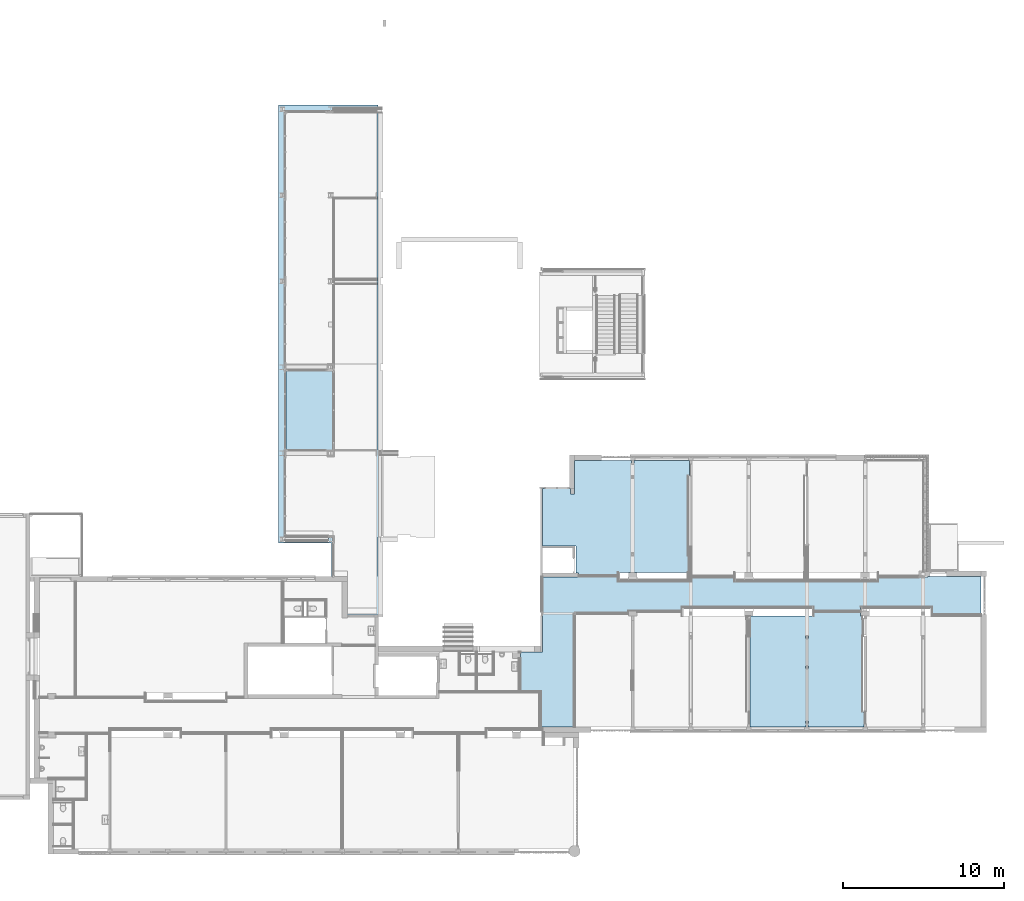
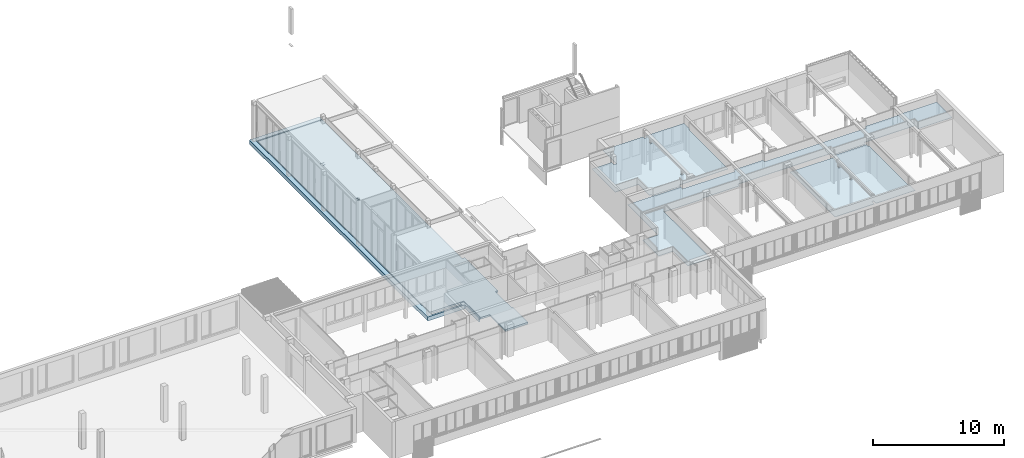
# One storey, part 25 of 99: 5 slabs.
"""IFC2X3 building model written with IfcOpenShell, lengths in millimetres."""

from ifc_helpers import new_model, entity, si_unit, converted_unit, derived_unit, money_unit, direction, frame, origin_with_axes, place, context, subcontext, project, spatial, faceted_brep, material, type_object, element, save


model = new_model("IFC2X3")

# Units and contexts
model_context = context("Model", 3, precision=0.01, world=origin_with_axes(), true_north=direction((0.0, 1.0)))
body_context = subcontext(model_context, "Body", "Model", "MODEL_VIEW")
ifc_project = project(units=[si_unit("LENGTHUNIT", "METRE", prefix="MILLI"), si_unit("AREAUNIT", "SQUARE_METRE"), si_unit("VOLUMEUNIT", "CUBIC_METRE"), converted_unit("PLANEANGLEUNIT", "DEGREE", entity("IfcPlaneAngleMeasure", 0.0174532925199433), si_unit("PLANEANGLEUNIT", "RADIAN"), dimensions=[0, 0, 0, 0, 0, 0, 0]), money_unit("EUR"), converted_unit("TIMEUNIT", "Year", entity("IfcTimeMeasure", 31557600.0), si_unit("TIMEUNIT", "SECOND"), dimensions=[0, 0, 1, 0, 0, 0, 0]), si_unit("MASSUNIT", "GRAM", prefix="KILO"), si_unit("THERMODYNAMICTEMPERATUREUNIT", "DEGREE_CELSIUS"), si_unit("LUMINOUSINTENSITYUNIT", "LUMEN"), si_unit("ENERGYUNIT", "JOULE", prefix="MEGA"), derived_unit("THERMALCONDUCTANCEUNIT", [(si_unit("POWERUNIT", "WATT"), 1), (si_unit("LENGTHUNIT", "METRE"), -1), (si_unit("THERMODYNAMICTEMPERATUREUNIT", "KELVIN"), -1)]), derived_unit("SPECIFICHEATCAPACITYUNIT", [(si_unit("ENERGYUNIT", "JOULE"), 1), (si_unit("MASSUNIT", "GRAM", prefix="KILO"), -1), (si_unit("THERMODYNAMICTEMPERATUREUNIT", "KELVIN"), -1)]), derived_unit("MASSDENSITYUNIT", [(si_unit("MASSUNIT", "GRAM", prefix="KILO"), 1), (si_unit("VOLUMEUNIT", "CUBIC_METRE"), -1)])], contexts=[model_context])

# Site, building, storey
site_placement = place(None, origin_with_axes())
site = spatial("IfcSite", under=ifc_project, at=site_placement, Name="Site", CompositionType="ELEMENT")
building_placement = place(site_placement, origin_with_axes())
building = spatial("IfcBuilding", under=site, at=building_placement, Name="Naam gebouw", CompositionType="ELEMENT")
storey_placement = place(building_placement, frame((0.0, 0.0, 7650.0), z_axis=(0.0, 0.0, 1.0), x_axis=(1.0, 0.0, 0.0)))
storey = spatial("IfcBuildingStorey", under=building, at=storey_placement, Name="2e verdieping N", CompositionType="ELEMENT", Elevation=7650.0)

# Slabs
ifc_material_1 = material(Name="ALG - BINNENAFWERKING")
slab_type_1 = type_object("IfcSlabType", Name="ALG - BINNENAFWERKING 40", PredefinedType="NOTDEFINED")
slab_1_placement = place(storey_placement, frame((30325.0, 10990.91242510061, 2450.000000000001), z_axis=(0.0, 0.0, 1.0), x_axis=(1.0, 0.0, 0.0)))
element("IfcSlab", 1, at=slab_1_placement, inside=storey, type_object=slab_type_1, material=ifc_material_1, Name="_Vloer-x", PredefinedType="NOTDEFINED", context=body_context, shape_type="Brep", body=[
    faceted_brep([(2034.999999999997, 7100.0, 39.99999999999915), (2139.999999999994, 7100.0, 39.99999999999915), (2139.999999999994, 7085.000000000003, 39.99999999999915), (5392.499999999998, 7085.000000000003, 39.99999999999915), (5392.499999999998, 7205.0, 39.99999999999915), (8704.99999999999, 7205.0, 39.99999999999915), (8704.99999999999, 7455.0, 39.99999999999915), (16895.00000000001, 7455.0, 39.99999999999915), (16895.00000000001, 7205.0, 39.99999999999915), (19804.99999999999, 7205.0, 39.99999999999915), (19804.99999999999, 7454.999999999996, 39.99999999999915), (24244.99999999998, 7454.999999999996, 39.99999999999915), (24244.99999999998, 6979.999999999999, 39.99999999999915), (27275.0, 6979.999999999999, 39.99999999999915), (27275.0, 9334.999999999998, 39.99999999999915), (23959.50000000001, 9334.999999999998, 39.99999999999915), (23959.50000000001, 9265.000000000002, 39.99999999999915), (20890.00000000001, 9265.000000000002, 39.99999999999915), (20890.00000000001, 9015.000000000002, 39.99999999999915), (11960.0, 9015.000000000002, 39.99999999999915), (11960.0, 9265.000000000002, 39.99999999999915), (9350.000000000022, 9265.000000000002, 39.99999999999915), (9350.000000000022, 9015.000000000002, 39.99999999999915), (4760.000000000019, 9015.000000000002, 39.99999999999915), (4760.000000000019, 9310.0, 39.99999999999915), (100.0000000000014, 9310.0, 39.99999999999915), (100.0000000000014, 4659.999999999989, 39.99999999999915), (-1274.999999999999, 4659.999999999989, 39.99999999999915), (-1274.999999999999, 2229.945694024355, 39.99999999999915), (0.0, 2229.945694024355, 39.99999999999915), (0.0, 0.0, 39.99999999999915), (2024.999999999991, 0.0, 39.99999999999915), (2024.999999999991, 6970.000000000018, 39.99999999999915), (2009.999999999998, 6970.000000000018, 39.99999999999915), (2009.999999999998, 7100.0, 39.99999999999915), (2139.999999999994, 7100.0, 0.0), (2034.999999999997, 7100.0, 0.0), (2139.999999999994, 7085.000000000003, 0.0), (5392.499999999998, 7085.000000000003, 0.0), (5392.499999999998, 7205.0, 0.0), (8704.99999999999, 7205.0, 0.0), (8704.99999999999, 7455.0, 0.0), (16895.00000000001, 7455.0, 0.0), (16895.00000000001, 7205.0, 0.0), (19804.99999999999, 7205.0, 0.0), (19804.99999999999, 7454.999999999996, 0.0), (24244.99999999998, 7454.999999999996, 0.0), (24244.99999999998, 6979.999999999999, 0.0), (27275.0, 6979.999999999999, 0.0), (27275.0, 9334.999999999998, 0.0), (23959.50000000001, 9334.999999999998, 0.0), (23959.50000000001, 9265.000000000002, 0.0), (20890.00000000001, 9265.000000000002, 0.0), (20890.00000000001, 9015.000000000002, 0.0), (11960.0, 9015.000000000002, 0.0), (11960.0, 9265.000000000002, 0.0), (9350.000000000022, 9265.000000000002, 0.0), (9350.000000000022, 9015.000000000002, 0.0), (4760.000000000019, 9015.000000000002, 0.0), (4760.000000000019, 9310.0, 0.0), (100.0000000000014, 9310.0, 0.0), (100.0000000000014, 4659.999999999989, 0.0), (-1274.999999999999, 4659.999999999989, 0.0), (-1274.999999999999, 2229.945694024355, 0.0), (0.0, 2229.945694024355, 0.0), (0.0, 0.0, 0.0), (2024.999999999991, 0.0, 0.0), (2024.999999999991, 6970.000000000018, 0.0), (2009.999999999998, 6970.000000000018, 0.0), (2009.999999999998, 7100.0, 0.0)], [[[0, 1, 2, 3, 4, 5, 6, 7, 8, 9, 10, 11, 12, 13, 14, 15, 16, 17, 18, 19, 20, 21, 22, 23, 24, 25, 26, 27, 28, 29, 30, 31, 32, 33, 34]], [[35, 1, 0, 36]], [[37, 2, 1, 35]], [[3, 2, 37, 38]], [[4, 3, 38, 39]], [[5, 4, 39, 40]], [[6, 5, 40, 41]], [[7, 6, 41, 42]], [[8, 7, 42, 43]], [[9, 8, 43, 44]], [[10, 9, 44, 45]], [[11, 10, 45, 46]], [[12, 11, 46, 47]], [[13, 12, 47, 48]], [[14, 13, 48, 49]], [[15, 14, 49, 50]], [[16, 15, 50, 51]], [[17, 16, 51, 52]], [[18, 17, 52, 53]], [[19, 18, 53, 54]], [[20, 19, 54, 55]], [[21, 20, 55, 56]], [[22, 21, 56, 57]], [[23, 22, 57, 58]], [[24, 23, 58, 59]], [[25, 24, 59, 60]], [[26, 25, 60, 61]], [[27, 26, 61, 62]], [[28, 27, 62, 63]], [[29, 28, 63, 64]], [[30, 29, 64, 65]], [[31, 30, 65, 66]], [[66, 67, 32, 31]], [[68, 33, 32, 67]], [[69, 34, 33, 68]], [[69, 36, 0, 34]], [[37, 35, 36, 69, 68, 67, 66, 65, 64, 63, 62, 61, 60, 59, 58, 57, 56, 55, 54, 53, 52, 51, 50, 49, 48, 47, 46, 45, 44, 43, 42, 41, 40, 39, 38]]]),
])
slab_2_placement = place(storey_placement, frame((30425.0, 22206.91242510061, 2450.000000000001), z_axis=(0.0, 0.0, 1.0), x_axis=(1.0, 0.0, 0.0)))
element("IfcSlab", 2, at=slab_2_placement, inside=storey, type_object=slab_type_1, material=ifc_material_1, Name="_Vloer-x", PredefinedType="NOTDEFINED", context=body_context, shape_type="Brep", body=[
    faceted_brep([(5514.999999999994, -560.9999999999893, 39.99999999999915), (5634.999999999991, -561.000000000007, 39.99999999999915), (5634.999999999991, -440.999999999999, 39.99999999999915), (5514.999999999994, -440.999999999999, 39.99999999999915), (5514.999999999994, -560.9999999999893, 0.0), (5634.999999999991, -561.000000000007, 0.0), (5634.999999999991, -440.999999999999, 0.0), (5514.999999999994, -440.999999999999, 0.0)], [[[0, 1, 2, 3]], [[4, 5, 1, 0]], [[5, 6, 2, 1]], [[3, 2, 6, 7]], [[7, 4, 0, 3]], [[7, 6, 5, 4]]]),
    faceted_brep([(5514.999999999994, 4214.000000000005, 39.99999999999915), (5634.999999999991, 4213.999999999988, 39.99999999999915), (5634.999999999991, 4333.999999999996, 39.99999999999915), (5514.999999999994, 4333.999999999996, 39.99999999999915), (5514.999999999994, 4214.000000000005, 0.0), (5634.999999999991, 4213.999999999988, 0.0), (5634.999999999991, 4333.999999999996, 0.0), (5514.999999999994, 4333.999999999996, 0.0)], [[[0, 1, 2, 3]], [[4, 5, 1, 0]], [[5, 6, 2, 1]], [[3, 2, 6, 7]], [[7, 4, 0, 3]], [[7, 6, 5, 4]]]),
    faceted_brep([(5660.000000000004, 4358.999999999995, 0.0), (5659.999999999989, 4333.999999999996, 0.0), (5659.999999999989, 4333.999999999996, 39.99999999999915), (5660.000000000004, 4358.999999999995, 39.99999999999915), (2224.999953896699, -1806.000000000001, 0.0), (2224.999953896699, -1656.000000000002, 0.0), (2156.117064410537, -1656.000000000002, 0.0), (2056.117064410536, -1656.000000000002, 0.0), (2056.117064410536, 0.0, 0.0), (0.0, 0.0, 0.0), (0.0, 3553.984600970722, 0.0), (1724.99999999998, 3553.984600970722, 0.0), (1724.999999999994, 3214.000000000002, 0.0), (1974.999999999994, 3214.000000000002, 0.0), (1974.999999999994, 5299.000000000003, 0.0), (5500.000000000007, 5299.000000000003, 0.0), (5500.000000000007, 5044.000000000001, 0.0), (5650.000000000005, 5044.000000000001, 0.0), (5650.000000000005, 5299.000000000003, 0.0), (9100.00000000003, 5299.000000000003, 0.0), (9100.00000000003, 4358.999999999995, 0.0), (9000.0, 4358.999999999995, 0.0), (9000.0, -1626.000000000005, 0.0), (4660.000000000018, -1626.000000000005, 0.0), (4660.000000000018, -1806.000000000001, 0.0), (5659.999999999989, -585.9999999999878, 0.0), (5659.999999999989, -561.000000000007, 0.0), (5659.999999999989, -440.999999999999, 0.0), (5660.000000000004, -416.0000000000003, 0.0), (5514.999999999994, -416.0000000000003, 0.0), (5489.999999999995, -416.0000000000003, 0.0), (5489.999999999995, -585.9999999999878, 0.0), (5514.999999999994, -585.9999999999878, 0.0), (5659.999999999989, 4189.000000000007, 0.0), (5659.999999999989, 4213.999999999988, 0.0), (5514.999999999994, 4358.999999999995, 0.0), (5489.999999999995, 4358.999999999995, 0.0), (5489.999999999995, 4189.000000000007, 0.0), (5514.999999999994, 4189.000000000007, 0.0), (5659.999999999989, 4213.999999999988, 39.99999999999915), (2156.117064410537, -1656.000000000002, 39.99999999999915), (2224.999953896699, -1656.000000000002, 39.99999999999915), (2224.999953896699, -1806.000000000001, 39.99999999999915), (4660.000000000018, -1806.000000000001, 39.99999999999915), (4660.000000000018, -1626.000000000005, 39.99999999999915), (9000.0, -1626.000000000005, 39.99999999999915), (9000.0, 4358.999999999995, 39.99999999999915), (9100.00000000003, 4358.999999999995, 39.99999999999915), (9100.00000000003, 5299.000000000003, 39.99999999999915), (5650.000000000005, 5299.000000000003, 39.99999999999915), (5650.000000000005, 5044.000000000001, 39.99999999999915), (5500.000000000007, 5044.000000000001, 39.99999999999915), (5500.000000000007, 5299.000000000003, 39.99999999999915), (1974.999999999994, 5299.000000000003, 39.99999999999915), (1974.999999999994, 3214.000000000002, 39.99999999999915), (1724.999999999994, 3214.000000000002, 39.99999999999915), (1724.99999999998, 3553.984600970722, 39.99999999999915), (0.0, 3553.984600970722, 39.99999999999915), (0.0, 0.0, 39.99999999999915), (2056.117064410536, 0.0, 39.99999999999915), (2056.117064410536, -1656.000000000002, 39.99999999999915), (5660.000000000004, -416.0000000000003, 39.99999999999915), (5659.999999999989, -440.999999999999, 39.99999999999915), (5659.999999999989, -561.000000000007, 39.99999999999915), (5659.999999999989, -585.9999999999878, 39.99999999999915), (5514.999999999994, -585.9999999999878, 39.99999999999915), (5489.999999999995, -585.9999999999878, 39.99999999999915), (5489.999999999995, -416.0000000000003, 39.99999999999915), (5514.999999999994, -416.0000000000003, 39.99999999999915), (5659.999999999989, 4189.000000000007, 39.99999999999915), (5514.999999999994, 4189.000000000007, 39.99999999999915), (5489.999999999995, 4189.000000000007, 39.99999999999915), (5489.999999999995, 4358.999999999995, 39.99999999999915), (5514.999999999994, 4358.999999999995, 39.99999999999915)], [[[0, 1, 2, 3]], [[4, 5, 6, 7, 8, 9, 10, 11, 12, 13, 14, 15, 16, 17, 18, 19, 20, 21, 22, 23, 24], [25, 26, 27, 28, 29, 30, 31, 32], [33, 34, 1, 0, 35, 36, 37, 38]], [[34, 39, 2, 1]], [[40, 41, 42, 43, 44, 45, 46, 47, 48, 49, 50, 51, 52, 53, 54, 55, 56, 57, 58, 59, 60], [61, 62, 63, 64, 65, 66, 67, 68], [3, 2, 39, 69, 70, 71, 72, 73]], [[0, 3, 73, 35]], [[4, 42, 41, 5]], [[5, 41, 40, 6]], [[7, 6, 40, 60]], [[60, 59, 8, 7]], [[59, 58, 9, 8]], [[58, 57, 10, 9]], [[57, 56, 11, 10]], [[56, 55, 12, 11]], [[55, 54, 13, 12]], [[54, 53, 14, 13]], [[53, 52, 15, 14]], [[52, 51, 16, 15]], [[51, 50, 17, 16]], [[50, 49, 18, 17]], [[49, 48, 19, 18]], [[48, 47, 20, 19]], [[47, 46, 21, 20]], [[46, 45, 22, 21]], [[45, 44, 23, 22]], [[44, 43, 24, 23]], [[43, 42, 4, 24]], [[64, 63, 26, 25]], [[26, 63, 62, 27]], [[28, 27, 62, 61]], [[28, 61, 68, 29]], [[30, 29, 68, 67]], [[30, 67, 66, 31]], [[66, 65, 32, 31]], [[32, 65, 64, 25]], [[69, 39, 34, 33]], [[36, 35, 73, 72]], [[36, 72, 71, 37]], [[71, 70, 38, 37]], [[38, 70, 69, 33]]]),
])
slab_3_placement = place(storey_placement, frame((43274.99994546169, 10990.91242510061, 2450.000000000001), z_axis=(0.0, 0.0, 1.0), x_axis=(1.0, 0.0, 0.0)))
element("IfcSlab", 3, at=slab_3_placement, inside=storey, type_object=slab_type_1, material=ifc_material_1, Name="_Vloer-x", PredefinedType="NOTDEFINED", context=body_context, shape_type="Brep", body=[
    faceted_brep([(3465.000054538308, 5510.00000000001, 39.99999999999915), (3585.000054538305, 5509.999999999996, 39.99999999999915), (3585.000054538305, 5630.000000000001, 39.99999999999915), (3465.000054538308, 5630.000000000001, 39.99999999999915), (3465.000054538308, 5510.00000000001, 0.0), (3585.000054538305, 5509.999999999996, 0.0), (3585.000054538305, 5630.000000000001, 0.0), (3465.000054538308, 5630.000000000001, 0.0)], [[[0, 1, 2, 3]], [[4, 5, 1, 0]], [[5, 6, 2, 1]], [[3, 2, 6, 7]], [[7, 4, 0, 3]], [[7, 6, 5, 4]]]),
    faceted_brep([(3465.000054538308, 3648.929620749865, 39.99999999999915), (3585.000054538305, 3648.929620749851, 39.99999999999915), (3585.000054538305, 3768.929620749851, 39.99999999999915), (3465.000054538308, 3768.929620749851, 39.99999999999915), (3465.000054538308, 3648.929620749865, 0.0), (3585.000054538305, 3648.929620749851, 0.0), (3585.000054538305, 3768.929620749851, 0.0), (3465.000054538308, 3768.929620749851, 0.0)], [[[0, 1, 2, 3]], [[4, 5, 1, 0]], [[5, 6, 2, 1]], [[3, 2, 6, 7]], [[7, 4, 0, 3]], [[7, 6, 5, 4]]]),
    faceted_brep([(3450.000046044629, 0.0, 0.0), (3450.000046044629, 210.0000000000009, 0.0), (3450.000046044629, 210.0000000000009, 39.99999999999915), (3450.000046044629, 0.0, 39.99999999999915), (3440.00005453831, 340.0000000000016, 0.0), (3440.00005453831, 210.0000000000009, 0.0), (0.0, 0.0, 0.0), (0.0, 6879.999969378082, 0.0), (3945.000092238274, 6879.999969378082, 0.0), (3945.000092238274, 7104.999999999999, 0.0), (6855.000107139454, 7104.999999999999, 0.0), (6855.000107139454, 6879.999969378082, 0.0), (6950.000028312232, 6879.999969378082, 0.0), (6950.000028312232, 940.0000502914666, 0.0), (7050.000006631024, 940.0000502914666, 0.0), (7050.000006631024, 0.0, 0.0), (3600.000066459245, 0.0, 0.0), (3600.000066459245, 210.0000000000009, 0.0), (3610.000054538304, 210.0000000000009, 0.0), (3610.000054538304, 340.0000000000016, 0.0), (3610.000054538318, 365.000000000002, 0.0), (3600.000066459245, 365.000000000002, 0.0), (3450.000046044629, 365.000000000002, 0.0), (3440.00005453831, 365.000000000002, 0.0), (3610.000054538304, 5485.000000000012, 0.0), (3610.000054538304, 5509.999999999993, 0.0), (3610.000054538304, 5630.000000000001, 0.0), (3610.000054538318, 5654.999999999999, 0.0), (3465.000054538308, 5654.999999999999, 0.0), (3440.00005453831, 5654.999999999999, 0.0), (3440.00005453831, 5485.000000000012, 0.0), (3465.000054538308, 5485.000000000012, 0.0), (3610.000054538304, 3623.929620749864, 0.0), (3610.000054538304, 3648.929620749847, 0.0), (3610.000054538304, 3768.929620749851, 0.0), (3610.000054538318, 3793.929620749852, 0.0), (3465.000054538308, 3793.929620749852, 0.0), (3440.00005453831, 3793.929620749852, 0.0), (3440.00005453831, 3623.929620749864, 0.0), (3465.000054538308, 3623.929620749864, 0.0), (3440.00005453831, 210.0000000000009, 39.99999999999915), (3440.00005453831, 340.0000000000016, 39.99999999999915), (3440.00005453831, 365.000000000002, 39.99999999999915), (3450.000046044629, 365.000000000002, 39.99999999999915), (3600.000066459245, 365.000000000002, 39.99999999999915), (3610.000054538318, 365.000000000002, 39.99999999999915), (3610.000054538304, 340.0000000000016, 39.99999999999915), (3610.000054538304, 210.0000000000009, 39.99999999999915), (3600.000066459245, 210.0000000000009, 39.99999999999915), (3600.000066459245, 0.0, 39.99999999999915), (7050.000006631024, 0.0, 39.99999999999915), (7050.000006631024, 940.0000502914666, 39.99999999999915), (6950.000028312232, 940.0000502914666, 39.99999999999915), (6950.000028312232, 6879.999969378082, 39.99999999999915), (6855.000107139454, 6879.999969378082, 39.99999999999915), (6855.000107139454, 7104.999999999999, 39.99999999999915), (3945.000092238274, 7104.999999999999, 39.99999999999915), (3945.000092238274, 6879.999969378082, 39.99999999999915), (0.0, 6879.999969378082, 39.99999999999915), (0.0, 0.0, 39.99999999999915), (3610.000054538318, 5654.999999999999, 39.99999999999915), (3610.000054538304, 5630.000000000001, 39.99999999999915), (3610.000054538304, 5509.999999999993, 39.99999999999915), (3610.000054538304, 5485.000000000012, 39.99999999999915), (3465.000054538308, 5485.000000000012, 39.99999999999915), (3440.00005453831, 5485.000000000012, 39.99999999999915), (3440.00005453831, 5654.999999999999, 39.99999999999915), (3465.000054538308, 5654.999999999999, 39.99999999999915), (3610.000054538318, 3793.929620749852, 39.99999999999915), (3610.000054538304, 3768.929620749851, 39.99999999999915), (3610.000054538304, 3648.929620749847, 39.99999999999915), (3610.000054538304, 3623.929620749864, 39.99999999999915), (3465.000054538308, 3623.929620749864, 39.99999999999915), (3440.00005453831, 3623.929620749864, 39.99999999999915), (3440.00005453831, 3793.929620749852, 39.99999999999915), (3465.000054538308, 3793.929620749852, 39.99999999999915)], [[[0, 1, 2, 3]], [[4, 5, 1, 0, 6, 7, 8, 9, 10, 11, 12, 13, 14, 15, 16, 17, 18, 19, 20, 21, 22, 23], [24, 25, 26, 27, 28, 29, 30, 31], [32, 33, 34, 35, 36, 37, 38, 39]], [[5, 40, 2, 1]], [[2, 40, 41, 42, 43, 44, 45, 46, 47, 48, 49, 50, 51, 52, 53, 54, 55, 56, 57, 58, 59, 3], [60, 61, 62, 63, 64, 65, 66, 67], [68, 69, 70, 71, 72, 73, 74, 75]], [[3, 59, 6, 0]], [[5, 4, 41, 40]], [[59, 58, 7, 6]], [[58, 57, 8, 7]], [[57, 56, 9, 8]], [[56, 55, 10, 9]], [[55, 54, 11, 10]], [[54, 53, 12, 11]], [[53, 52, 13, 12]], [[52, 51, 14, 13]], [[51, 50, 15, 14]], [[50, 49, 16, 15]], [[49, 48, 17, 16]], [[17, 48, 47, 18]], [[18, 47, 46, 19]], [[20, 19, 46, 45]], [[20, 45, 44, 21]], [[22, 21, 44, 43]], [[23, 22, 43, 42]], [[42, 41, 4, 23]], [[63, 62, 25, 24]], [[25, 62, 61, 26]], [[27, 26, 61, 60]], [[27, 60, 67, 28]], [[29, 28, 67, 66]], [[29, 66, 65, 30]], [[65, 64, 31, 30]], [[31, 64, 63, 24]], [[71, 70, 33, 32]], [[33, 70, 69, 34]], [[35, 34, 69, 68]], [[35, 68, 75, 36]], [[37, 36, 75, 74]], [[37, 74, 73, 38]], [[73, 72, 39, 38]], [[39, 72, 71, 32]]]),
])
ifc_material_2 = material(Name="beton")
slab_type_2 = type_object("IfcSlabType", Name="Floor:23_3B_beton 170mm", PredefinedType="FLOOR")
slab_4_placement = place(storey_placement, frame((20333.50016211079, 17973.37946115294, -3500.0), z_axis=(0.0, 0.0, 1.0), x_axis=(1.0, 0.0, 0.0)))
element("IfcSlab", 4, at=slab_4_placement, inside=storey, type_object=slab_type_2, material=ifc_material_2, Name="Floor:23_3B_beton 170mm", PredefinedType="FLOOR", context=body_context, shape_type="Brep", body=[
    faceted_brep([(-122.5001620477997, 31087.53296517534, -169.9999999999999), (-122.5001621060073, 9857.532965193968, -169.9999999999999), (-121.50016211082, 9857.532965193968, -169.9999999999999), (-121.50016211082, 4782.548590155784, -169.9999999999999), (-122.5001620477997, 4782.548590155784, -169.9999999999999), (-122.5001621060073, 2342.504937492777, -169.9999999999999), (2.91038304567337e-08, 2342.504937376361, -169.9999999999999), (0.0, 0.0, -169.9999999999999), (-2014.782770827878, 0.0, -169.9999999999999), (-2014.782770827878, 2337.504937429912, -169.9999999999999), (-2826.500162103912, 2337.504937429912, -169.9999999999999), (-2826.500162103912, 4877.532965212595, -169.9999999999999), (-5826.500162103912, 4877.532965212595, -169.9999999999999), (-5826.500162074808, 31087.53296517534, -169.9999999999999), (-3023.500162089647, 20769.91565107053, -169.9999999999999), (-3010.000162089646, 20773.53296516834, -169.9999999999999), (-2892.500162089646, 20773.53296516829, -169.9999999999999), (-2892.500162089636, 20792.53296516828, -169.9999999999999), (-3192.500162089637, 20792.53296516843, -169.9999999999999), (-3192.500162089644, 20773.53296516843, -169.9999999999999), (-3075.000162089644, 20773.53296516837, -169.9999999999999), (-3061.500162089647, 20769.91565107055, -169.9999999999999), (-3051.617476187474, 20760.03296516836, -169.9999999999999), (-3048.000162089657, 20746.53296516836, -169.9999999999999), (-3048.00016208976, 20538.53296516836, -169.9999999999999), (-3051.617476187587, 20525.03296516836, -169.9999999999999), (-3061.500162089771, 20515.15027926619, -169.9999999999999), (-3075.000162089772, 20511.53296516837, -169.9999999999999), (-3192.500162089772, 20511.53296516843, -169.9999999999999), (-3192.500162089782, 20492.53296516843, -169.9999999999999), (-2892.500162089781, 20492.53296516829, -169.9999999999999), (-2892.500162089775, 20511.53296516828, -169.9999999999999), (-3010.000162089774, 20511.53296516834, -169.9999999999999), (-3023.500162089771, 20515.15027926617, -169.9999999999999), (-3033.382847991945, 20525.03296516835, -169.9999999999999), (-3037.000162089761, 20538.53296516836, -169.9999999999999), (-3037.000162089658, 20746.53296516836, -169.9999999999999), (-3033.382847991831, 20760.03296516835, -169.9999999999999), (-3023.500162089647, 26099.91565108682, -169.9999999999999), (-3010.000162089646, 26103.53296518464, -169.9999999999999), (-2892.500162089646, 26103.53296518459, -169.9999999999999), (-2892.500162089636, 26122.53296518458, -169.9999999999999), (-3192.500162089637, 26122.53296518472, -169.9999999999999), (-3192.500162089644, 26103.53296518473, -169.9999999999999), (-3075.000162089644, 26103.53296518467, -169.9999999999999), (-3061.500162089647, 26099.91565108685, -169.9999999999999), (-3051.617476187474, 26090.03296518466, -169.9999999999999), (-3048.000162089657, 26076.53296518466, -169.9999999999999), (-3048.00016208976, 25868.53296518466, -169.9999999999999), (-3051.617476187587, 25855.03296518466, -169.9999999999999), (-3061.500162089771, 25845.15027928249, -169.9999999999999), (-3075.000162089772, 25841.53296518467, -169.9999999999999), (-3192.500162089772, 25841.53296518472, -169.9999999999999), (-3192.500162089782, 25822.53296518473, -169.9999999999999), (-2892.500162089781, 25822.53296518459, -169.9999999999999), (-2892.500162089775, 25841.53296518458, -169.9999999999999), (-3010.000162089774, 25841.53296518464, -169.9999999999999), (-3023.500162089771, 25845.15027928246, -169.9999999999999), (-3033.382847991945, 25855.03296518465, -169.9999999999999), (-3037.000162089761, 25868.53296518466, -169.9999999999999), (-3037.000162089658, 26076.53296518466, -169.9999999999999), (-3033.382847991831, 26090.03296518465, -169.9999999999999), (-122.5001620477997, 31087.53296517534, 0.0), (-122.5001621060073, 9857.532965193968, 0.0), (-37.50016211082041, 9857.532965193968, -169.9999999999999), (-37.50016211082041, 9857.532965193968, -79.9999999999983), (-121.50016211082, 9857.532965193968, -79.9999999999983), (107.49983790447, 9857.532965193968, 0.0), (107.49983790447, 9857.532965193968, -169.9999999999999), (-121.50016211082, 4782.548590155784, -79.9999999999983), (-37.50016211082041, 4782.548590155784, -79.9999999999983), (-37.50016211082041, 4782.548590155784, -169.9999999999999), (107.4998379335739, 4782.548590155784, -169.9999999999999), (107.4998379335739, 4782.548590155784, 0.0), (-122.5001620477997, 4782.548590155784, 0.0), (-122.5001621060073, 2342.504937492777, 0.0), (2.91038304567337e-08, 2342.504937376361, 0.0), (0.0, 0.0, 0.0), (-2014.782770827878, 0.0, 0.0), (-2014.782770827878, 2337.504937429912, 0.0), (-2826.500162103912, 2337.504937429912, 0.0), (-2826.500162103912, 4877.532965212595, 0.0), (-5826.500162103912, 4877.532965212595, 0.0), (-5826.500162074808, 31087.53296517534, 0.0), (-3023.500162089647, 20769.91565107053, 0.0), (-3010.000162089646, 20773.53296516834, 0.0), (-2892.500162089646, 20773.53296516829, 0.0), (-2892.500162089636, 20792.53296516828, 0.0), (-3192.500162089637, 20792.53296516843, 0.0), (-3192.500162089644, 20773.53296516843, 0.0), (-3075.000162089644, 20773.53296516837, 0.0), (-3061.500162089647, 20769.91565107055, 0.0), (-3051.617476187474, 20760.03296516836, 0.0), (-3048.000162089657, 20746.53296516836, 0.0), (-3048.00016208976, 20538.53296516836, 0.0), (-3051.617476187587, 20525.03296516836, 0.0), (-3061.500162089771, 20515.15027926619, 0.0), (-3075.000162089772, 20511.53296516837, 0.0), (-3192.500162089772, 20511.53296516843, 0.0), (-3192.500162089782, 20492.53296516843, 0.0), (-2892.500162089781, 20492.53296516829, 0.0), (-2892.500162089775, 20511.53296516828, 0.0), (-3010.000162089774, 20511.53296516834, 0.0), (-3023.500162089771, 20515.15027926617, 0.0), (-3033.382847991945, 20525.03296516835, 0.0), (-3037.000162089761, 20538.53296516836, 0.0), (-3037.000162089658, 20746.53296516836, 0.0), (-3033.382847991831, 20760.03296516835, 0.0), (-3023.500162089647, 26099.91565108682, 0.0), (-3010.000162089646, 26103.53296518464, 0.0), (-2892.500162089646, 26103.53296518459, 0.0), (-2892.500162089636, 26122.53296518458, 0.0), (-3192.500162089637, 26122.53296518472, 0.0), (-3192.500162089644, 26103.53296518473, 0.0), (-3075.000162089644, 26103.53296518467, 0.0), (-3061.500162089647, 26099.91565108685, 0.0), (-3051.617476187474, 26090.03296518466, 0.0), (-3048.000162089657, 26076.53296518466, 0.0), (-3048.00016208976, 25868.53296518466, 0.0), (-3051.617476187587, 25855.03296518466, 0.0), (-3061.500162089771, 25845.15027928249, 0.0), (-3075.000162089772, 25841.53296518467, 0.0), (-3192.500162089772, 25841.53296518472, 0.0), (-3192.500162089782, 25822.53296518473, 0.0), (-2892.500162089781, 25822.53296518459, 0.0), (-2892.500162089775, 25841.53296518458, 0.0), (-3010.000162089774, 25841.53296518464, 0.0), (-3023.500162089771, 25845.15027928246, 0.0), (-3033.382847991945, 25855.03296518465, 0.0), (-3037.000162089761, 25868.53296518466, 0.0), (-3037.000162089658, 26076.53296518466, 0.0), (-3033.382847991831, 26090.03296518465, 0.0)], [[[0, 1, 2, 3, 4, 5, 6, 7, 8, 9, 10, 11, 12, 13], [14, 15, 16, 17, 18, 19, 20, 21, 22, 23, 24, 25, 26, 27, 28, 29, 30, 31, 32, 33, 34, 35, 36, 37], [38, 39, 40, 41, 42, 43, 44, 45, 46, 47, 48, 49, 50, 51, 52, 53, 54, 55, 56, 57, 58, 59, 60, 61]], [[0, 62, 63, 1]], [[64, 65, 66, 2, 1, 63, 67, 68]], [[69, 3, 2, 66]], [[3, 69, 70, 71, 72, 73, 74, 4]], [[4, 74, 75, 5]], [[5, 75, 76, 6]], [[6, 76, 77, 7]], [[7, 77, 78, 8]], [[8, 78, 79, 9]], [[9, 79, 80, 10]], [[10, 80, 81, 11]], [[11, 81, 82, 12]], [[12, 82, 83, 13]], [[13, 83, 62, 0]], [[14, 84, 85, 15]], [[15, 85, 86, 16]], [[16, 86, 87, 17]], [[17, 87, 88, 18]], [[18, 88, 89, 19]], [[19, 89, 90, 20]], [[20, 90, 91, 21]], [[21, 91, 92, 22]], [[22, 92, 93, 23]], [[23, 93, 94, 24]], [[24, 94, 95, 25]], [[25, 95, 96, 26]], [[26, 96, 97, 27]], [[27, 97, 98, 28]], [[28, 98, 99, 29]], [[29, 99, 100, 30]], [[30, 100, 101, 31]], [[31, 101, 102, 32]], [[32, 102, 103, 33]], [[33, 103, 104, 34]], [[34, 104, 105, 35]], [[35, 105, 106, 36]], [[36, 106, 107, 37]], [[37, 107, 84, 14]], [[38, 108, 109, 39]], [[39, 109, 110, 40]], [[40, 110, 111, 41]], [[41, 111, 112, 42]], [[42, 112, 113, 43]], [[43, 113, 114, 44]], [[44, 114, 115, 45]], [[45, 115, 116, 46]], [[46, 116, 117, 47]], [[47, 117, 118, 48]], [[48, 118, 119, 49]], [[49, 119, 120, 50]], [[50, 120, 121, 51]], [[51, 121, 122, 52]], [[52, 122, 123, 53]], [[53, 123, 124, 54]], [[54, 124, 125, 55]], [[55, 125, 126, 56]], [[56, 126, 127, 57]], [[57, 127, 128, 58]], [[58, 128, 129, 59]], [[59, 129, 130, 60]], [[60, 130, 131, 61]], [[61, 131, 108, 38]], [[80, 79, 78, 77, 76, 75, 74, 73, 67, 63, 62, 83, 82, 81], [90, 89, 88, 87, 86, 85, 84, 107, 106, 105, 104, 103, 102, 101, 100, 99, 98, 97, 96, 95, 94, 93, 92, 91], [114, 113, 112, 111, 110, 109, 108, 131, 130, 129, 128, 127, 126, 125, 124, 123, 122, 121, 120, 119, 118, 117, 116, 115]], [[71, 70, 65, 64]], [[70, 69, 66, 65]], [[68, 67, 73, 72]], [[68, 72, 71, 64]]]),
])
slab_type_3 = type_object("IfcSlabType", Name="Floor:23_3B_beton 370 mm", PredefinedType="FLOOR")
slab_5_placement = place(storey_placement, frame((17442.00000003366, 20310.88439864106, -3500.0), z_axis=(0.0, 0.0, 1.0), x_axis=(1.0, 0.0, 0.0)))
element("IfcSlab", 5, at=slab_5_placement, inside=storey, type_object=slab_type_3, material=ifc_material_2, Name="Floor:23_3B_beton 370 mm", PredefinedType="FLOOR", context=body_context, shape_type="Brep", body=[
    faceted_brep([(-301.0000000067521, 2196.02802771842, 0.0), (-301.0000000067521, 2465.028027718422, 0.0), (-301.0000000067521, 2465.028027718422, -169.9999999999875), (-301.0000000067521, 2196.02802771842, -169.9999999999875), (-2967.499999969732, 2196.02802771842, -1.832831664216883e-06), (-2967.499999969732, 2465.028027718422, -1.832831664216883e-06), (-3000.0, 2465.028027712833, 0.0), (-2999.999999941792, 28815.02802763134, 0.0), (2769.000000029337, 28815.02802763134, 0.0), (2769.000000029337, 29215.02802765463, 0.0), (-3397.369470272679, 29215.02802765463, 0.0), (-3397.369470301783, 2071.028027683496, 0.0), (-99.99999997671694, 2071.028027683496, 0.0), (-99.99999997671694, -5.820766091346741e-08, 0.0), (0.0, 0.0, 0.0), (2.91038304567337e-08, 2465.028027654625, 0.0), (-2967.499999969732, 2465.028027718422, -169.9999999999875), (2.91038304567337e-08, 2465.028027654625, -370.0000000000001), (-3000.0, 2465.028027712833, -370.0000000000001), (-2967.499999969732, 2196.02802771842, -169.9999999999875), (-2999.999999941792, 28815.02802763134, -370.0000000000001), (2769.000000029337, 28815.02802763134, -370.0000000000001), (2769.000000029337, 29215.02802765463, -370.0000000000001), (-3397.369470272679, 29215.02802765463, -370.0000000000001), (-3397.369470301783, 2071.028027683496, -370.0000000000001), (-99.99999997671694, 2071.028027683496, -370.0000000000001), (-99.99999997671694, -5.820766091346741e-08, -370.0000000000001), (0.0, 0.0, -370.0000000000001)], [[[0, 1, 2, 3]], [[1, 0, 4, 5, 6, 7, 8, 9, 10, 11, 12, 13, 14, 15]], [[6, 5, 16, 2, 1, 15, 17, 18]], [[2, 16, 19, 3]], [[3, 19, 4, 0]], [[16, 5, 4, 19]], [[20, 7, 6, 18]], [[21, 8, 7, 20]], [[22, 9, 8, 21]], [[23, 10, 9, 22]], [[24, 11, 10, 23]], [[25, 12, 11, 24]], [[26, 13, 12, 25]], [[27, 14, 13, 26]], [[17, 15, 14, 27]], [[20, 18, 17, 27, 26, 25, 24, 23, 22, 21]]]),
])

save(model, "model.ifc")
